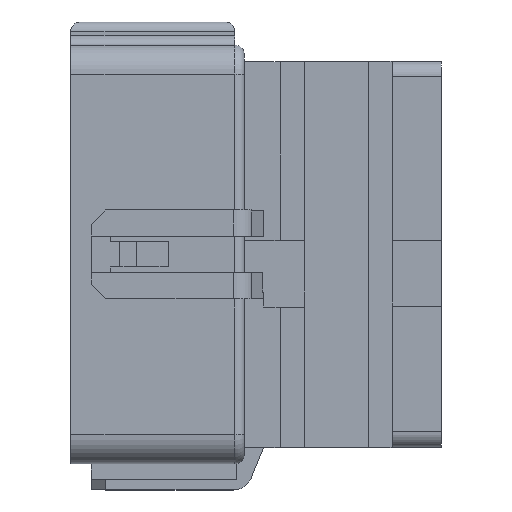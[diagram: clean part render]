
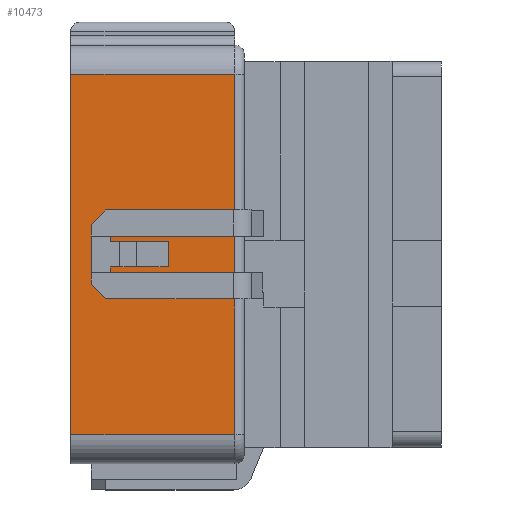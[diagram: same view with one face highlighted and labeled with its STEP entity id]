
A CAD part, top view. The second image highlights one B-rep face of the part: STEP entity #10473.
In plain terms, the highlighted planar face has unit normal (0, 0, 1).
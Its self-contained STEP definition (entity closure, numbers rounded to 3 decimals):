
#10441=AXIS2_PLACEMENT_3D('Plane Axis2P3D',#10438,#10439,#10440) ;
#2205=CARTESIAN_POINT('Line Origine',(-7.4,2.,13.5)) ;
#2209=CARTESIAN_POINT('Vertex',(-7.4,0.7,13.5)) ;
#2211=CARTESIAN_POINT('Vertex',(-7.4,3.3,13.5)) ;
#2508=CARTESIAN_POINT('Vertex',(-6.4,0.7,13.5)) ;
#2511=CARTESIAN_POINT('Line Origine',(-6.4,2.,13.5)) ;
#2515=CARTESIAN_POINT('Vertex',(-6.4,3.3,13.5)) ;
#2540=CARTESIAN_POINT('Line Origine',(-6.9,0.7,13.5)) ;
#2563=CARTESIAN_POINT('Line Origine',(-6.9,3.3,13.5)) ;
#7896=CARTESIAN_POINT('Vertex',(-14.4,4.95,13.5)) ;
#7899=CARTESIAN_POINT('Line Origine',(-14.4,4.425,13.5)) ;
#7903=CARTESIAN_POINT('Vertex',(-14.4,3.9,13.5)) ;
#7915=CARTESIAN_POINT('Vertex',(-14.4,0.1,13.5)) ;
#7918=CARTESIAN_POINT('Line Origine',(-14.4,-0.425,13.5)) ;
#7922=CARTESIAN_POINT('Vertex',(-14.4,-0.95,13.5)) ;
#8769=CARTESIAN_POINT('Line Origine',(-6.95,4.95,13.5)) ;
#8773=CARTESIAN_POINT('Vertex',(0.5,4.95,13.5)) ;
#8901=CARTESIAN_POINT('Vertex',(-16.5,20.7,13.5)) ;
#8904=CARTESIAN_POINT('Line Origine',(-7.5,20.7,13.5)) ;
#8908=CARTESIAN_POINT('Vertex',(0.5,20.7,13.5)) ;
#9092=CARTESIAN_POINT('Line Origine',(0.5,2.,13.5)) ;
#10025=CARTESIAN_POINT('Vertex',(0.5,0.1,13.5)) ;
#10030=CARTESIAN_POINT('Line Origine',(-6.95,0.1,13.5)) ;
#10067=CARTESIAN_POINT('Line Origine',(-6.95,3.9,13.5)) ;
#10071=CARTESIAN_POINT('Vertex',(0.5,3.9,13.5)) ;
#10100=CARTESIAN_POINT('Line Origine',(0.5,1.88,13.5)) ;
#10295=CARTESIAN_POINT('Vertex',(0.5,-0.95,13.5)) ;
#10303=CARTESIAN_POINT('Line Origine',(-6.95,-0.95,13.5)) ;
#10321=CARTESIAN_POINT('Line Origine',(-7.5,-16.7,13.5)) ;
#10325=CARTESIAN_POINT('Vertex',(-16.5,-16.7,13.5)) ;
#10327=CARTESIAN_POINT('Vertex',(0.5,-16.7,13.5)) ;
#10438=CARTESIAN_POINT('Axis2P3D Location',(-16.5,-19.7,13.5)) ;
#10443=CARTESIAN_POINT('Line Origine',(0.5,-8.825,13.5)) ;
#10448=CARTESIAN_POINT('Line Origine',(-16.5,2.,13.5)) ;
#2206=DIRECTION('Vector Direction',(0.,1.,0.)) ;
#2512=DIRECTION('Vector Direction',(0.,1.,0.)) ;
#2541=DIRECTION('Vector Direction',(1.,0.,0.)) ;
#2564=DIRECTION('Vector Direction',(1.,0.,0.)) ;
#7900=DIRECTION('Vector Direction',(0.,1.,0.)) ;
#7919=DIRECTION('Vector Direction',(0.,1.,0.)) ;
#8770=DIRECTION('Vector Direction',(1.,0.,0.)) ;
#8905=DIRECTION('Vector Direction',(1.,0.,0.)) ;
#9093=DIRECTION('Vector Direction',(0.,1.,0.)) ;
#10031=DIRECTION('Vector Direction',(1.,0.,0.)) ;
#10068=DIRECTION('Vector Direction',(1.,0.,0.)) ;
#10101=DIRECTION('Vector Direction',(0.,1.,0.)) ;
#10304=DIRECTION('Vector Direction',(1.,0.,0.)) ;
#10322=DIRECTION('Vector Direction',(1.,0.,0.)) ;
#10439=DIRECTION('Axis2P3D Direction',(0.,0.,-1.)) ;
#10440=DIRECTION('Axis2P3D XDirection',(0.,1.,0.)) ;
#10444=DIRECTION('Vector Direction',(0.,1.,0.)) ;
#10449=DIRECTION('Vector Direction',(0.,1.,0.)) ;
#2207=VECTOR('Line Direction',#2206,1.) ;
#2513=VECTOR('Line Direction',#2512,1.) ;
#2542=VECTOR('Line Direction',#2541,1.) ;
#2565=VECTOR('Line Direction',#2564,1.) ;
#7901=VECTOR('Line Direction',#7900,1.) ;
#7920=VECTOR('Line Direction',#7919,1.) ;
#8771=VECTOR('Line Direction',#8770,1.) ;
#8906=VECTOR('Line Direction',#8905,1.) ;
#9094=VECTOR('Line Direction',#9093,1.) ;
#10032=VECTOR('Line Direction',#10031,1.) ;
#10069=VECTOR('Line Direction',#10068,1.) ;
#10102=VECTOR('Line Direction',#10101,1.) ;
#10305=VECTOR('Line Direction',#10304,1.) ;
#10323=VECTOR('Line Direction',#10322,1.) ;
#10445=VECTOR('Line Direction',#10444,1.) ;
#10450=VECTOR('Line Direction',#10449,1.) ;
#10454=ORIENTED_EDGE('',*,*,#10447,.F.) ;
#10455=ORIENTED_EDGE('',*,*,#10307,.F.) ;
#10456=ORIENTED_EDGE('',*,*,#7924,.F.) ;
#10457=ORIENTED_EDGE('',*,*,#10034,.T.) ;
#10458=ORIENTED_EDGE('',*,*,#10104,.T.) ;
#10459=ORIENTED_EDGE('',*,*,#10073,.F.) ;
#10460=ORIENTED_EDGE('',*,*,#7905,.T.) ;
#10461=ORIENTED_EDGE('',*,*,#8775,.T.) ;
#10462=ORIENTED_EDGE('',*,*,#9096,.T.) ;
#10463=ORIENTED_EDGE('',*,*,#8910,.F.) ;
#10464=ORIENTED_EDGE('',*,*,#10452,.F.) ;
#10465=ORIENTED_EDGE('',*,*,#10329,.T.) ;
#10468=ORIENTED_EDGE('',*,*,#2213,.T.) ;
#10469=ORIENTED_EDGE('',*,*,#2567,.F.) ;
#10470=ORIENTED_EDGE('',*,*,#2517,.F.) ;
#10471=ORIENTED_EDGE('',*,*,#2544,.T.) ;
#10472=FACE_BOUND('',#10467,.T.) ;
#10473=ADVANCED_FACE('\X2\FF8EFF9EFF83FF9EFF68FF70\X0\.2',(#10466,#10472),#10442,.F.) ;
#2213=EDGE_CURVE('',#2210,#2212,#2208,.T.) ;
#2517=EDGE_CURVE('',#2509,#2516,#2514,.T.) ;
#2544=EDGE_CURVE('',#2509,#2210,#2543,.F.) ;
#2567=EDGE_CURVE('',#2516,#2212,#2566,.F.) ;
#7905=EDGE_CURVE('',#7904,#7897,#7902,.T.) ;
#7924=EDGE_CURVE('',#7916,#7923,#7921,.F.) ;
#8775=EDGE_CURVE('',#7897,#8774,#8772,.T.) ;
#8910=EDGE_CURVE('',#8902,#8909,#8907,.T.) ;
#9096=EDGE_CURVE('',#8774,#8909,#9095,.T.) ;
#10034=EDGE_CURVE('',#7916,#10026,#10033,.T.) ;
#10073=EDGE_CURVE('',#7904,#10072,#10070,.T.) ;
#10104=EDGE_CURVE('',#10026,#10072,#10103,.T.) ;
#10307=EDGE_CURVE('',#7923,#10296,#10306,.T.) ;
#10329=EDGE_CURVE('',#10326,#10328,#10324,.T.) ;
#10447=EDGE_CURVE('',#10296,#10328,#10446,.F.) ;
#10452=EDGE_CURVE('',#10326,#8902,#10451,.T.) ;
#10453=EDGE_LOOP('',(#10454,#10455,#10456,#10457,#10458,#10459,#10460,#10461,#10462,#10463,#10464,#10465)) ;
#10467=EDGE_LOOP('',(#10468,#10469,#10470,#10471)) ;
#10466=FACE_OUTER_BOUND('',#10453,.T.) ;
#2208=LINE('Line',#2205,#2207) ;
#2514=LINE('Line',#2511,#2513) ;
#2543=LINE('Line',#2540,#2542) ;
#2566=LINE('Line',#2563,#2565) ;
#7902=LINE('Line',#7899,#7901) ;
#7921=LINE('Line',#7918,#7920) ;
#8772=LINE('Line',#8769,#8771) ;
#8907=LINE('Line',#8904,#8906) ;
#9095=LINE('Line',#9092,#9094) ;
#10033=LINE('Line',#10030,#10032) ;
#10070=LINE('Line',#10067,#10069) ;
#10103=LINE('Line',#10100,#10102) ;
#10306=LINE('Line',#10303,#10305) ;
#10324=LINE('Line',#10321,#10323) ;
#10446=LINE('Line',#10443,#10445) ;
#10451=LINE('Line',#10448,#10450) ;
#10442=PLANE('',#10441) ;
#2210=VERTEX_POINT('',#2209) ;
#2212=VERTEX_POINT('',#2211) ;
#2509=VERTEX_POINT('',#2508) ;
#2516=VERTEX_POINT('',#2515) ;
#7897=VERTEX_POINT('',#7896) ;
#7904=VERTEX_POINT('',#7903) ;
#7916=VERTEX_POINT('',#7915) ;
#7923=VERTEX_POINT('',#7922) ;
#8774=VERTEX_POINT('',#8773) ;
#8902=VERTEX_POINT('',#8901) ;
#8909=VERTEX_POINT('',#8908) ;
#10026=VERTEX_POINT('',#10025) ;
#10072=VERTEX_POINT('',#10071) ;
#10296=VERTEX_POINT('',#10295) ;
#10326=VERTEX_POINT('',#10325) ;
#10328=VERTEX_POINT('',#10327) ;
